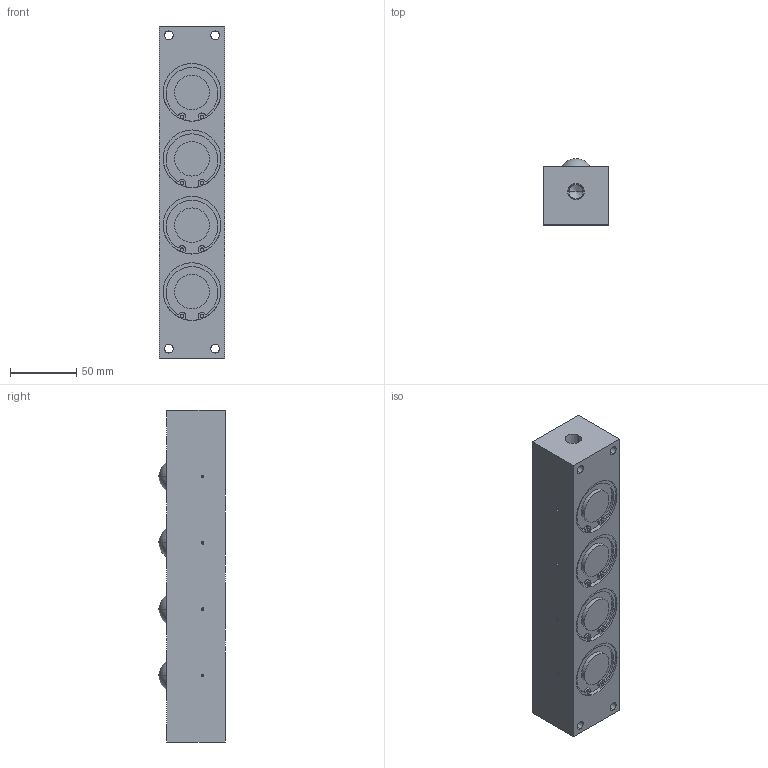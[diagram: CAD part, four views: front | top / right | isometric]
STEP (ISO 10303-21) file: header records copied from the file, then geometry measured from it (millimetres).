
FILE_DESCRIPTION (( 'STEP AP203' ), '1' );
FILE_NAME ('PVL55SW-4.STEP', '2016-01-06T02:11:54', ( '' ), ( '' ), 'SwSTEP 2.0', 'SolidWorks 2013', '' );
FILE_SCHEMA (( 'CONFIG_CONTROL_DESIGN' ));
Length unit declared in the file: millimetre
Products named in the file (1): PVL55SW-4
Bounding box: 49 x 50 x 250 mm (x, y, z)
Volume: 523831.2 mm3; surface area: 66438.9 mm2
Topology: 2 solids, 2 shells, 228 faces, 530 edges, 338 vertices
Faces by surface type: cylinder 134, plane 64, cone 22, sphere 8
Entity records: 6573 total; most frequent: DIRECTION 1264, CARTESIAN_POINT 1077, ORIENTED_EDGE 1020, AXIS2_PLACEMENT_3D 525, EDGE_CURVE 510, VERTEX_POINT 338, CIRCLE 296, EDGE_LOOP 288
